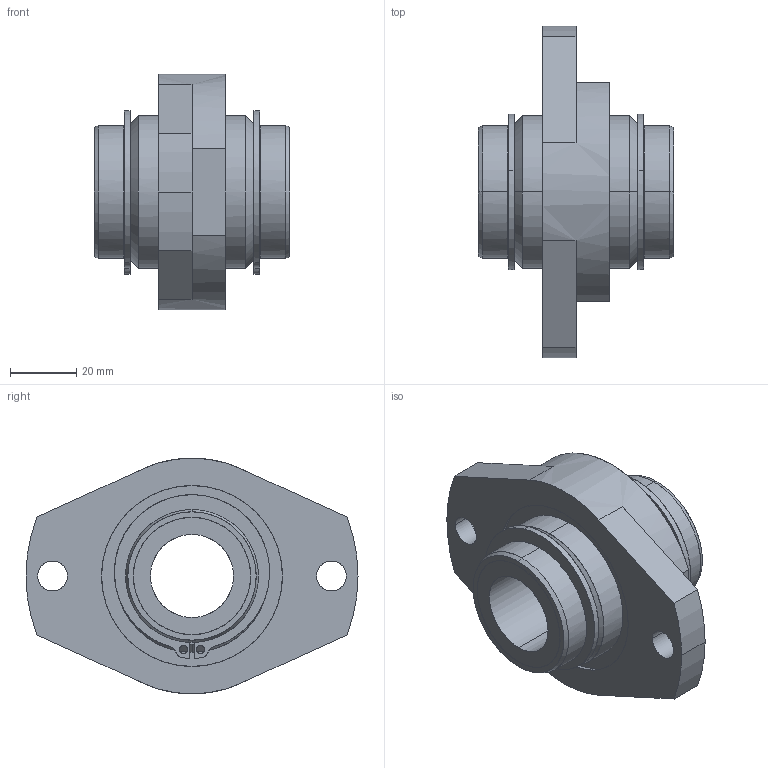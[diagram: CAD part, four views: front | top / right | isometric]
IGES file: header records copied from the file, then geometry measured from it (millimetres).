
Global section: file name: No Iges File Name specified; native system: AutoDesk Inventor R10; preprocessor: AutoDesk Inventor Iges Exporter R10; author: No Author specified; organization: No Organization specified; date: 20101214.161445; units: millimetre
Bounding box: 59 x 100 x 71 mm (x, y, z)
Surface area: 29229.6 mm2 (no closed solid volume)
Topology: 0 solids, 0 shells, 98 faces, 680 edges, 676 vertices
Faces by surface type: bspline 98
